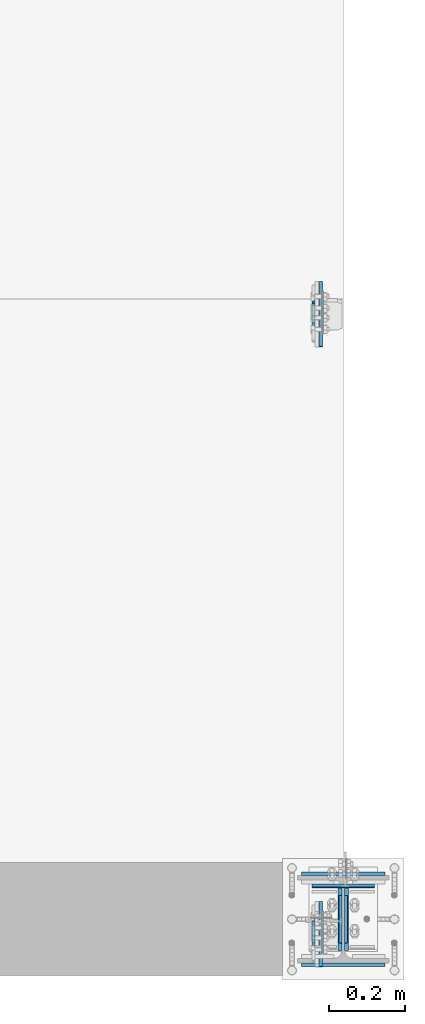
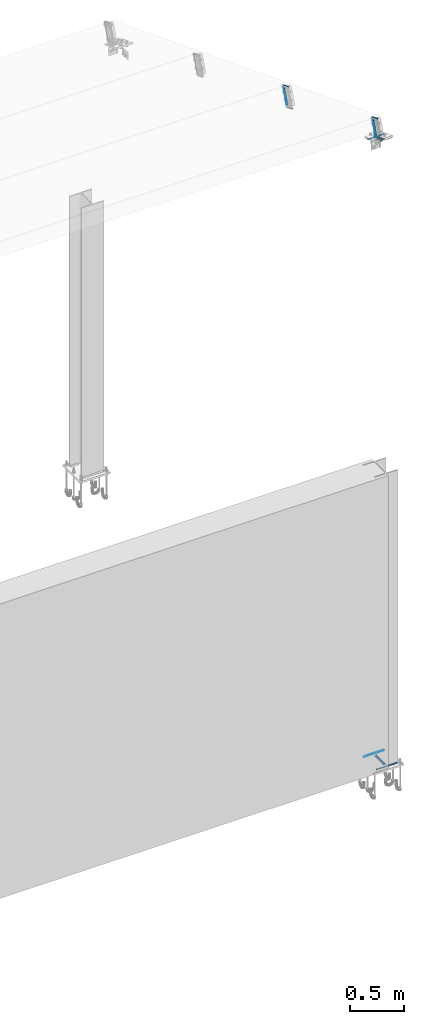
# One storey, part 18 of 72: 26 fasteners.
"""IFC4 building model written with IfcOpenShell, lengths in metres."""

import ifcopenshell
import ifcopenshell.guid

model = None  # the IFC model being written
_history = None  # IfcOwnerHistory: only IFC2X3 demands one
_inside = {}  # id of a spatial element -> (the spatial element, [elements in it])
_under = {}  # id of a project, library or spatial element -> (it, [spatial elements below it])
_declared = {}  # id of a project -> (the project, [libraries it declares])
_typed = {}  # id of a type object -> (the type object, [elements of that type])
_made_of = {}  # id of a material, layer set ... -> (it, [elements and type objects made of it])


def new_model(schema):
    """Start an empty IFC model of exactly this schema.

    Asked for "IFC4X3", IfcOpenShell would pick the latest addendum, in which some entities
    have other attributes; the version numbers below select the first issue.
    IFC2X3 requires an IfcOwnerHistory on every rooted entity: one is made here for all.
    """
    global model, _history
    if schema == "IFC4X3":
        model = ifcopenshell.file(schema_version=(4, 3, 0, 0))
    else:
        model = ifcopenshell.file(schema=schema)
    _inside.clear()
    _under.clear()
    _declared.clear()
    _typed.clear()
    _made_of.clear()
    _history = None
    if model.schema == "IFC2X3":
        org = make("IfcOrganization", Name="unknown")
        user = make(
            "IfcPersonAndOrganization",
            ThePerson=make("IfcPerson", FamilyName="unknown"),
            TheOrganization=org,
        )
        app = make(
            "IfcApplication",
            ApplicationDeveloper=org,
            Version="unknown",
            ApplicationFullName="unknown",
            ApplicationIdentifier="unknown",
        )
        _history = make(
            "IfcOwnerHistory",
            OwningUser=user,
            OwningApplication=app,
            ChangeAction="ADDED",
            CreationDate=0,
        )
    return model


def make(cls, **values):
    """One entity of the class cls with the attributes given. An attribute that is None is left unset."""
    return model.create_entity(
        cls, **{name: value for name, value in values.items() if value is not None}
    )


def rooted(cls, **values):
    """An entity with a GlobalId (a new one), such as an element, a storey or a relation."""
    return make(cls, GlobalId=ifcopenshell.guid.new(), OwnerHistory=_history, **values)


def si_unit(unit_type, name, prefix=None):
    """IfcSIUnit, for example si_unit("LENGTHUNIT", "METRE", prefix="MILLI")."""
    return make("IfcSIUnit", UnitType=unit_type, Prefix=prefix, Name=name)


def assignment(units):
    """IfcUnitAssignment: the units of a project."""
    return None if units is None else make("IfcUnitAssignment", Units=units)


def point(xyz):
    """IfcCartesianPoint."""
    return None if xyz is None else make("IfcCartesianPoint", Coordinates=xyz)


def direction(xyz):
    """IfcDirection."""
    return None if xyz is None else make("IfcDirection", DirectionRatios=xyz)


def frame(location, z_axis=None, x_axis=None):
    """IfcAxis2Placement3D, a coordinate frame: its origin and axes. An axis left out is left unset."""
    return make(
        "IfcAxis2Placement3D",
        Location=point(location),
        Axis=direction(z_axis),
        RefDirection=direction(x_axis),
    )


def origin_with_axes():
    """The frame at (0, 0, 0) with the z axis (0, 0, 1) and the x axis (1, 0, 0) written out."""
    return frame((0.0, 0.0, 0.0), z_axis=(0.0, 0.0, 1.0), x_axis=(1.0, 0.0, 0.0))


def place(relative_to, where):
    """IfcLocalPlacement: puts the frame where relative to a parent placement (None: the world)."""
    return make(
        "IfcLocalPlacement", PlacementRelTo=relative_to, RelativePlacement=where
    )


def context(
    kind, dimensions, precision=None, world=None, true_north=None, identifier=None
):
    """IfcGeometricRepresentationContext, for example the 3D "Model" context."""
    return make(
        "IfcGeometricRepresentationContext",
        ContextIdentifier=identifier,
        ContextType=kind,
        CoordinateSpaceDimension=dimensions,
        Precision=precision,
        WorldCoordinateSystem=world,
        TrueNorth=true_north,
    )


def project(units=None, contexts=None):
    """IfcProject with its units and contexts."""
    return rooted(
        "IfcProject",
        Name="project",
        RepresentationContexts=contexts,
        UnitsInContext=assignment(units),
    )


def spatial(cls, under=None, at=None, **own):
    """A site, building, storey or space (cls), placed at a placement, below another one or the project."""
    s = rooted(cls, ObjectPlacement=at, **own)
    if under is not None:
        _under.setdefault(under.id(), (under, []))[1].append(s)
    return s


def polyline(points):
    """IfcPolyline through the points."""
    return make("IfcPolyline", Points=[point(p) for p in points])


def outline(outer, holes=None, kind="AREA"):
    """IfcArbitraryClosedProfileDef: a profile drawn as a closed curve; with holes, ...WithVoids."""
    if holes is None:
        return make("IfcArbitraryClosedProfileDef", ProfileType=kind, OuterCurve=outer)
    return make(
        "IfcArbitraryProfileDefWithVoids",
        ProfileType=kind,
        OuterCurve=outer,
        InnerCurves=holes,
    )


def extrude(swept, where, along, depth):
    """IfcExtrudedAreaSolid: the profile swept, set in the frame where, extruded along a direction by depth."""
    return make(
        "IfcExtrudedAreaSolid",
        SweptArea=swept,
        Position=where,
        ExtrudedDirection=direction(along),
        Depth=depth,
    )


def shape(context_of_items, identifier, shape_type, items):
    """IfcShapeRepresentation: the items that make up one representation, for example the "Body"."""
    return make(
        "IfcShapeRepresentation",
        ContextOfItems=context_of_items,
        RepresentationIdentifier=identifier,
        RepresentationType=shape_type,
        Items=items,
    )


def made_of(thing, what):
    """Note that an element or type object is made of a material, layer set ...; save() writes the relation."""
    if what is not None:
        _made_of.setdefault(what.id(), (what, []))[1].append(thing)
    return thing


def type_object(cls, material=None, **own):
    """A type object (cls), such as IfcWallType, which elements share."""
    return made_of(rooted(cls, **own), material)


def element(
    cls,
    number,
    at=None,
    inside=None,
    cuts=None,
    type_object=None,
    material=None,
    context=None,
    identifier="Body",
    shape_type=None,
    held_by="IfcProductDefinitionShape",
    body=None,
    shapes=None,
    **own,
):
    """One element of the class cls, such as IfcWall. Its Tag is "e" and its number.

    at: its placement. inside: the storey or other place that contains it. cuts: it is an
    opening in that element (IfcRelVoidsElement). A single representation is given by context,
    identifier, shape_type and body (its items); several are given by shapes. held_by: the class
    of the entity that holds the representations. save() writes the other relations.
    """
    e = rooted(cls, Tag="e%d" % number, ObjectPlacement=at, **own)
    if body is not None:
        shapes = [shape(context, identifier, shape_type, body)]
    if shapes is not None:
        e.Representation = make(held_by, Representations=shapes)
    if inside is not None:
        _inside.setdefault(inside.id(), (inside, []))[1].append(e)
    if cuts is not None:
        rooted(
            "IfcRelVoidsElement", RelatingBuildingElement=cuts, RelatedOpeningElement=e
        )
    if type_object is not None:
        _typed.setdefault(type_object.id(), (type_object, []))[1].append(e)
    return made_of(e, material)


def aggregate(whole, parts):
    """IfcRelAggregates: a whole, such as a stair, and the parts it consists of."""
    return rooted("IfcRelAggregates", RelatingObject=whole, RelatedObjects=parts)


def save(model, path):
    """Write the relations noted so far, then the file.

    IfcRelAggregates (storeys below a building ...), IfcRelContainedInSpatialStructure (elements
    in a storey), IfcRelDefinesByType, IfcRelAssociatesMaterial and IfcRelDeclares: one each for
    every whole, place, type object, material and project.
    """
    for whole, parts in _under.values():
        aggregate(whole, parts)
    for where, things in _inside.values():
        rooted(
            "IfcRelContainedInSpatialStructure",
            RelatedElements=things,
            RelatingStructure=where,
        )
    for kind, things in _typed.values():
        rooted("IfcRelDefinesByType", RelatedObjects=things, RelatingType=kind)
    for what, things in _made_of.values():
        rooted("IfcRelAssociatesMaterial", RelatedObjects=things, RelatingMaterial=what)
    for by, libraries in _declared.values():
        rooted("IfcRelDeclares", RelatingContext=by, RelatedDefinitions=libraries)
    model.write(path)


model = new_model("IFC4")

# Units and contexts
model_context = context("Model", 3, precision=1e-05, world=origin_with_axes())
ifc_project = project(units=[si_unit("LENGTHUNIT", "METRE"), si_unit("AREAUNIT", "SQUARE_METRE"), si_unit("VOLUMEUNIT", "CUBIC_METRE"), si_unit("MASSUNIT", "GRAM", prefix="KILO"), si_unit("TIMEUNIT", "SECOND"), si_unit("PLANEANGLEUNIT", "RADIAN"), si_unit("SOLIDANGLEUNIT", "STERADIAN"), si_unit("THERMODYNAMICTEMPERATUREUNIT", "DEGREE_CELSIUS")], contexts=[model_context])

# Site, building, storey
placement_1 = place(None, origin_with_axes())
site = spatial("IfcSite", under=ifc_project, at=placement_1, Name="Italia", CompositionType="ELEMENT")
building = spatial("IfcBuilding", under=site, at=placement_1, Name="Uffici", CompositionType="ELEMENT")
storey = spatial("IfcBuildingStorey", under=building, at=placement_1, Name="Storey 0", CompositionType="ELEMENT", Elevation=0.0)

# Fasteners
fastener_type_1 = type_object("IfcFastenerType", Name="Collegamento -030_-029", PredefinedType="WELD")
placement_2 = place(placement_1, origin_with_axes())
fastener_1_placement = place(placement_2, origin_with_axes())
element("IfcFastener", 1, at=fastener_1_placement, inside=storey, type_object=fastener_type_1, Name="Collegamento -030_-029", context=model_context, shape_type="SweptSolid", body=[
    extrude(outline(polyline([(0.0, 0.0), (-0.00717354, 0.00695848), (0.0, 0.00695848), (0.0, 0.0)])), frame((13.8951, 1.63499, 6.58409), z_axis=(0.0, -0.361462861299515, -0.932386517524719), x_axis=(1.0, 0.0, 0.0)), (0.0, 0.0, 1.0), 0.1591),
])
fastener_type_2 = type_object("IfcFastenerType", Name="Collegamento -030_-029", PredefinedType="WELD")
fastener_2_placement = place(placement_2, origin_with_axes())
element("IfcFastener", 2, at=fastener_2_placement, inside=storey, type_object=fastener_type_2, Name="Collegamento -030_-029", context=model_context, shape_type="SweptSolid", body=[
    extrude(outline(polyline([(0.0, 0.0), (0.00717354, -0.00695837), (0.0, -0.00695837), (0.0, 0.0)])), frame((13.8951, 1.55938, 6.44277), z_axis=(0.0, 0.36146154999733, 0.932386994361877), x_axis=(-1.0, 0.0, 0.0)), (0.0, 0.0, 1.0), 0.1591),
])
fastener_type_3 = type_object("IfcFastenerType", Name="Collegamento -030_-029", PredefinedType="WELD")
fastener_3_placement = place(placement_2, origin_with_axes())
element("IfcFastener", 3, at=fastener_3_placement, inside=storey, type_object=fastener_type_3, Name="Collegamento -030_-029", context=model_context, shape_type="SweptSolid", body=[
    extrude(outline(polyline([(0.0, 0.0), (-0.00717354, 0.00695848), (0.0, 0.00695848), (0.0, 0.0)])), frame((13.8951, 1.63499, 6.58409), z_axis=(0.0, -0.361462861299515, -0.932386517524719), x_axis=(1.0, 0.0, 0.0)), (0.0, 0.0, 1.0), 0.1591),
])
fastener_type_4 = type_object("IfcFastenerType", Name="Collegamento -030_-029", PredefinedType="WELD")
fastener_4_placement = place(placement_2, origin_with_axes())
element("IfcFastener", 4, at=fastener_4_placement, inside=storey, type_object=fastener_type_4, Name="Collegamento -030_-029", context=model_context, shape_type="SweptSolid", body=[
    extrude(outline(polyline([(0.0, 0.0), (0.00717354, -0.00695837), (0.0, -0.00695837), (0.0, 0.0)])), frame((13.8951, 1.55938, 6.44277), z_axis=(0.0, 0.36146154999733, 0.932386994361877), x_axis=(-1.0, 0.0, 0.0)), (0.0, 0.0, 1.0), 0.1591),
])
fastener_type_5 = type_object("IfcFastenerType", Name="Collegamento -030_-029", PredefinedType="WELD")
fastener_5_placement = place(placement_2, origin_with_axes())
element("IfcFastener", 5, at=fastener_5_placement, inside=storey, type_object=fastener_type_5, Name="Collegamento -030_-029", context=model_context, shape_type="SweptSolid", body=[
    extrude(outline(polyline([(0.0, 0.0), (0.00937271, -0.00909233), (0.0, -0.00909233), (0.0, 0.0)])), frame((13.9151, 1.51041, 6.42806), z_axis=(0.0, 0.932386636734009, -0.361462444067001), x_axis=(-1.0, 0.0, 0.0)), (0.0, 0.0, 1.0), 0.1001),
])
fastener_type_6 = type_object("IfcFastenerType", Name="Collegamento -030_-029", PredefinedType="WELD")
fastener_6_placement = place(placement_2, origin_with_axes())
element("IfcFastener", 6, at=fastener_6_placement, inside=storey, type_object=fastener_type_6, Name="Collegamento -030_-029", context=model_context, shape_type="SweptSolid", body=[
    extrude(outline(polyline([(0.0, 0.0), (-0.00937271, 0.00909185), (0.0, 0.00909185), (0.0, 0.0)])), frame((13.9151, 1.67673, 6.58014), z_axis=(0.0, -0.932386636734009, 0.361462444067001), x_axis=(1.0, 0.0, 0.0)), (0.0, 0.0, 1.0), 0.1001),
])
fastener_type_7 = type_object("IfcFastenerType", Name="Collegamenti 0001_0101 0002_0102 0003_0103 0004_0104 0005_0105 0011_0111 0012_0112 0013_0113 0014_0114 0015_0115", PredefinedType="WELD")
fastener_7_placement = place(placement_2, origin_with_axes())
element("IfcFastener", 7, at=fastener_7_placement, inside=storey, type_object=fastener_type_7, Name="Collegamenti 0001_0101 0002_0102 0003_0103 0004_0104 0005_0105 0011_0111 0012_0112 0013_0113 0014_0114 0015_0115", context=model_context, shape_type="SweptSolid", body=[
    extrude(outline(polyline([(0.0, 0.0), (0.00986816, 0.0101734), (0.00986816, 0.0), (0.0, 0.0)])), frame((14.0801, 0.124818, 0.01995), z_axis=(-1.0, 6.7701649e-08, 0.0), x_axis=(-6.7701649e-08, -1.0, 0.0)), (0.0, 0.0, 1.0), 0.2201),
])
fastener_type_8 = type_object("IfcFastenerType", Name="Collegamenti 0001_0101 0002_0102 0003_0103 0004_0104 0005_0105 0011_0111 0012_0112 0013_0113 0014_0114 0015_0115", PredefinedType="WELD")
fastener_8_placement = place(placement_2, origin_with_axes())
element("IfcFastener", 8, at=fastener_8_placement, inside=storey, type_object=fastener_type_8, Name="Collegamenti 0001_0101 0002_0102 0003_0103 0004_0104 0005_0105 0011_0111 0012_0112 0013_0113 0014_0114 0015_0115", context=model_context, shape_type="SweptSolid", body=[
    extrude(outline(polyline([(0.0, 0.0), (0.00986816, 0.0101734), (0.00986816, 0.0), (0.0, 0.0)])), frame((13.86, -0.124818, 0.01995), z_axis=(1.0, -6.7701649e-08, 0.0), x_axis=(6.7701649e-08, 1.0, 0.0)), (0.0, 0.0, 1.0), 0.2201),
])
fastener_type_9 = type_object("IfcFastenerType", Name="Collegamenti 0001_0101 0002_0102 0003_0103 0004_0104 0005_0105 0011_0111 0012_0112 0013_0113 0014_0114 0015_0115", PredefinedType="WELD")
fastener_9_placement = place(placement_2, origin_with_axes())
element("IfcFastener", 9, at=fastener_9_placement, inside=storey, type_object=fastener_type_9, Name="Collegamenti 0001_0101 0002_0102 0003_0103 0004_0104 0005_0105 0011_0111 0012_0112 0013_0113 0014_0114 0015_0115", context=model_context, shape_type="SweptSolid", body=[
    extrude(outline(polyline([(0.0, 0.0), (0.00986767, 0.0101734), (0.00986767, 0.0), (0.0, 0.0)])), frame((13.9836, -0.08205, 0.01995), z_axis=(0.0, 1.0, 0.0), x_axis=(-1.0, 0.0, 0.0)), (0.0, 0.0, 1.0), 0.1641),
])
fastener_type_10 = type_object("IfcFastenerType", Name="Collegamenti 0001_0101 0002_0102 0003_0103 0004_0104 0005_0105 0011_0111 0012_0112 0013_0113 0014_0114 0015_0115", PredefinedType="WELD")
fastener_10_placement = place(placement_2, origin_with_axes())
element("IfcFastener", 10, at=fastener_10_placement, inside=storey, type_object=fastener_type_10, Name="Collegamenti 0001_0101 0002_0102 0003_0103 0004_0104 0005_0105 0011_0111 0012_0112 0013_0113 0014_0114 0015_0115", context=model_context, shape_type="SweptSolid", body=[
    extrude(outline(polyline([(0.0, 0.0), (0.00986767, 0.0101734), (0.00986767, 0.0), (0.0, 0.0)])), frame((13.9564, 0.08205, 0.01995), z_axis=(0.0, -1.0, 0.0), x_axis=(1.0, 0.0, 0.0)), (0.0, 0.0, 1.0), 0.1641),
])
fastener_type_11 = type_object("IfcFastenerType", Name="Collegamenti 0001_0101 0002_0102 0003_0103 0004_0104 0005_0105 0011_0111 0012_0112 0013_0113 0014_0114 0015_0115", PredefinedType="WELD")
fastener_11_placement = place(placement_2, origin_with_axes())
element("IfcFastener", 11, at=fastener_11_placement, inside=storey, type_object=fastener_type_11, Name="Collegamenti 0001_0101 0002_0102 0003_0103 0004_0104 0005_0105 0011_0111 0012_0112 0013_0113 0014_0114 0015_0115", context=model_context, shape_type="SweptSolid", body=[
    extrude(outline(polyline([(0.0, 0.0), (0.00986816, 0.0101734), (0.00986816, 0.0), (0.0, 0.0)])), frame((14.0801, 0.124818, 0.01995), z_axis=(-1.0, 6.7701649e-08, 0.0), x_axis=(-6.7701649e-08, -1.0, 0.0)), (0.0, 0.0, 1.0), 0.2201),
])
fastener_type_12 = type_object("IfcFastenerType", Name="Collegamenti 0001_0101 0002_0102 0003_0103 0004_0104 0005_0105 0011_0111 0012_0112 0013_0113 0014_0114 0015_0115", PredefinedType="WELD")
fastener_12_placement = place(placement_2, origin_with_axes())
element("IfcFastener", 12, at=fastener_12_placement, inside=storey, type_object=fastener_type_12, Name="Collegamenti 0001_0101 0002_0102 0003_0103 0004_0104 0005_0105 0011_0111 0012_0112 0013_0113 0014_0114 0015_0115", context=model_context, shape_type="SweptSolid", body=[
    extrude(outline(polyline([(0.0, 0.0), (0.00986816, 0.0101734), (0.00986816, 0.0), (0.0, 0.0)])), frame((13.86, -0.124818, 0.01995), z_axis=(1.0, -6.7701649e-08, 0.0), x_axis=(6.7701649e-08, 1.0, 0.0)), (0.0, 0.0, 1.0), 0.2201),
])
fastener_type_13 = type_object("IfcFastenerType", Name="Collegamenti 0001_0101 0002_0102 0003_0103 0004_0104 0005_0105 0011_0111 0012_0112 0013_0113 0014_0114 0015_0115", PredefinedType="WELD")
fastener_13_placement = place(placement_2, origin_with_axes())
element("IfcFastener", 13, at=fastener_13_placement, inside=storey, type_object=fastener_type_13, Name="Collegamenti 0001_0101 0002_0102 0003_0103 0004_0104 0005_0105 0011_0111 0012_0112 0013_0113 0014_0114 0015_0115", context=model_context, shape_type="SweptSolid", body=[
    extrude(outline(polyline([(0.0, 0.0), (0.00986767, 0.0101734), (0.00986767, 0.0), (0.0, 0.0)])), frame((13.9836, -0.08205, 0.01995), z_axis=(0.0, 1.0, 0.0), x_axis=(-1.0, 0.0, 0.0)), (0.0, 0.0, 1.0), 0.1641),
])
fastener_type_14 = type_object("IfcFastenerType", Name="Collegamenti 0001_0101 0002_0102 0003_0103 0004_0104 0005_0105 0011_0111 0012_0112 0013_0113 0014_0114 0015_0115", PredefinedType="WELD")
fastener_14_placement = place(placement_2, origin_with_axes())
element("IfcFastener", 14, at=fastener_14_placement, inside=storey, type_object=fastener_type_14, Name="Collegamenti 0001_0101 0002_0102 0003_0103 0004_0104 0005_0105 0011_0111 0012_0112 0013_0113 0014_0114 0015_0115", context=model_context, shape_type="SweptSolid", body=[
    extrude(outline(polyline([(0.0, 0.0), (0.00986767, 0.0101734), (0.00986767, 0.0), (0.0, 0.0)])), frame((13.9564, 0.08205, 0.01995), z_axis=(0.0, -1.0, 0.0), x_axis=(1.0, 0.0, 0.0)), (0.0, 0.0, 1.0), 0.1641),
])
fastener_type_15 = type_object("IfcFastenerType", Name="Collegamento 0205_0105", PredefinedType="WELD")
fastener_15_placement = place(placement_2, origin_with_axes())
element("IfcFastener", 15, at=fastener_15_placement, inside=storey, type_object=fastener_type_15, Name="Collegamento 0205_0105", context=model_context, shape_type="SweptSolid", body=[
    extrude(outline(polyline([(0.0, 0.0), (-0.0103468, -0.00475407), (-0.00739191, 0.00286627), (0.0, 0.0)])), frame((13.888, 0.0928638, 6.952), z_axis=(1.0, 0.0, 0.0), x_axis=(0.0, 1.0, 0.0)), (0.0, 0.0, 1.0), 0.164101),
])
fastener_type_16 = type_object("IfcFastenerType", Name="Collegamento 0205_0105", PredefinedType="WELD")
fastener_16_placement = place(placement_2, origin_with_axes())
element("IfcFastener", 16, at=fastener_16_placement, inside=storey, type_object=fastener_type_16, Name="Collegamento 0205_0105", context=model_context, shape_type="SweptSolid", body=[
    extrude(outline(polyline([(0.0, 0.0), (-0.00792789, -0.00817299), (-0.00792789, 0.0), (0.0, 0.0)])), frame((13.9809, 0.0620796, 6.96393), z_axis=(0.0, -0.932361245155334, 0.361528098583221), x_axis=(1.0, 0.0, 0.0)), (0.0, 0.0, 1.0), 0.133127),
])
fastener_type_17 = type_object("IfcFastenerType", Name="Collegamento 0205_0105", PredefinedType="WELD")
fastener_17_placement = place(placement_2, origin_with_axes())
element("IfcFastener", 17, at=fastener_17_placement, inside=storey, type_object=fastener_type_17, Name="Collegamento 0205_0105", context=model_context, shape_type="SweptSolid", body=[
    extrude(outline(polyline([(0.0, 0.0), (-0.00792789, -0.00817299), (-0.00792789, 0.0), (0.0, 0.0)])), frame((13.9591, -0.0620427, 7.01206), z_axis=(0.0, 0.932361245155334, -0.361528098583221), x_axis=(-1.0, 0.0, 0.0)), (0.0, 0.0, 1.0), 0.133127),
])
fastener_type_18 = type_object("IfcFastenerType", Name="Collegamento 0205_0105", PredefinedType="WELD")
fastener_18_placement = place(placement_2, origin_with_axes())
element("IfcFastener", 18, at=fastener_18_placement, inside=storey, type_object=fastener_type_18, Name="Collegamento 0205_0105", context=model_context, shape_type="SweptSolid", body=[
    extrude(outline(polyline([(0.0, 0.0), (-0.0103468, -0.00475407), (-0.00739191, 0.00286627), (0.0, 0.0)])), frame((13.888, 0.0928638, 6.952), z_axis=(1.0, 0.0, 0.0), x_axis=(0.0, 1.0, 0.0)), (0.0, 0.0, 1.0), 0.164101),
])
fastener_type_19 = type_object("IfcFastenerType", Name="Collegamento 0205_0105", PredefinedType="WELD")
fastener_19_placement = place(placement_2, origin_with_axes())
element("IfcFastener", 19, at=fastener_19_placement, inside=storey, type_object=fastener_type_19, Name="Collegamento 0205_0105", context=model_context, shape_type="SweptSolid", body=[
    extrude(outline(polyline([(0.0, 0.0), (-0.00792789, -0.00817299), (-0.00792789, 0.0), (0.0, 0.0)])), frame((13.9809, 0.0620796, 6.96393), z_axis=(0.0, -0.932361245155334, 0.361528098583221), x_axis=(1.0, 0.0, 0.0)), (0.0, 0.0, 1.0), 0.133127),
])
fastener_type_20 = type_object("IfcFastenerType", Name="Collegamento 0205_0105", PredefinedType="WELD")
fastener_20_placement = place(placement_2, origin_with_axes())
element("IfcFastener", 20, at=fastener_20_placement, inside=storey, type_object=fastener_type_20, Name="Collegamento 0205_0105", context=model_context, shape_type="SweptSolid", body=[
    extrude(outline(polyline([(0.0, 0.0), (-0.00792789, -0.00817299), (-0.00792789, 0.0), (0.0, 0.0)])), frame((13.9591, -0.0620427, 7.01206), z_axis=(0.0, 0.932361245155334, -0.361528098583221), x_axis=(-1.0, 0.0, 0.0)), (0.0, 0.0, 1.0), 0.133127),
])
fastener_type_21 = type_object("IfcFastenerType", Name="Collegamento 0205_0204", PredefinedType="WELD")
fastener_21_placement = place(placement_2, origin_with_axes())
element("IfcFastener", 21, at=fastener_21_placement, inside=storey, type_object=fastener_type_21, Name="Collegamento 0205_0204", context=model_context, shape_type="SweptSolid", body=[
    extrude(outline(polyline([(0.0, 0.0), (-0.00717354, 0.00695801), (0.0, 0.00695801), (0.0, 0.0)])), frame((13.8951, 0.00165956, 7.21742), z_axis=(0.0, -0.361462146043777, -0.932386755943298), x_axis=(1.0, 0.0, 0.0)), (0.0, 0.0, 1.0), 0.1591),
])
fastener_type_22 = type_object("IfcFastenerType", Name="Collegamento 0205_0204", PredefinedType="WELD")
fastener_22_placement = place(placement_2, origin_with_axes())
element("IfcFastener", 22, at=fastener_22_placement, inside=storey, type_object=fastener_type_22, Name="Collegamento 0205_0204", context=model_context, shape_type="SweptSolid", body=[
    extrude(outline(polyline([(0.0, 0.0), (0.00717354, -0.00695825), (0.0, -0.00695825), (0.0, 0.0)])), frame((13.8951, -0.0739523, 7.0761), z_axis=(0.0, 0.36146005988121, 0.932387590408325), x_axis=(-1.0, 0.0, 0.0)), (0.0, 0.0, 1.0), 0.1591),
])
fastener_type_23 = type_object("IfcFastenerType", Name="Collegamento 0205_0204", PredefinedType="WELD")
fastener_23_placement = place(placement_2, origin_with_axes())
element("IfcFastener", 23, at=fastener_23_placement, inside=storey, type_object=fastener_type_23, Name="Collegamento 0205_0204", context=model_context, shape_type="SweptSolid", body=[
    extrude(outline(polyline([(0.0, 0.0), (-0.00717354, 0.00695801), (0.0, 0.00695801), (0.0, 0.0)])), frame((13.8951, 0.00165956, 7.21742), z_axis=(0.0, -0.361462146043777, -0.932386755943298), x_axis=(1.0, 0.0, 0.0)), (0.0, 0.0, 1.0), 0.1591),
])
fastener_type_24 = type_object("IfcFastenerType", Name="Collegamento 0205_0204", PredefinedType="WELD")
fastener_24_placement = place(placement_2, origin_with_axes())
element("IfcFastener", 24, at=fastener_24_placement, inside=storey, type_object=fastener_type_24, Name="Collegamento 0205_0204", context=model_context, shape_type="SweptSolid", body=[
    extrude(outline(polyline([(0.0, 0.0), (0.00717354, -0.00695825), (0.0, -0.00695825), (0.0, 0.0)])), frame((13.8951, -0.0739523, 7.0761), z_axis=(0.0, 0.36146005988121, 0.932387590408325), x_axis=(-1.0, 0.0, 0.0)), (0.0, 0.0, 1.0), 0.1591),
])
fastener_type_25 = type_object("IfcFastenerType", Name="Collegamento 0205_0204", PredefinedType="WELD")
fastener_25_placement = place(placement_2, origin_with_axes())
element("IfcFastener", 25, at=fastener_25_placement, inside=storey, type_object=fastener_type_25, Name="Collegamento 0205_0204", context=model_context, shape_type="SweptSolid", body=[
    extrude(outline(polyline([(0.0, 0.0), (0.00937271, -0.00909233), (0.0, -0.00909233), (0.0, 0.0)])), frame((13.9151, -0.122918, 7.0614), z_axis=(0.0, 0.932386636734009, -0.361462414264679), x_axis=(-1.0, 0.0, 0.0)), (0.0, 0.0, 1.0), 0.1001),
])
fastener_type_26 = type_object("IfcFastenerType", Name="Collegamento 0205_0204", PredefinedType="WELD")
fastener_26_placement = place(placement_2, origin_with_axes())
element("IfcFastener", 26, at=fastener_26_placement, inside=storey, type_object=fastener_type_26, Name="Collegamento 0205_0204", context=model_context, shape_type="SweptSolid", body=[
    extrude(outline(polyline([(0.0, 0.0), (-0.00937271, 0.00909233), (0.0, 0.00909233), (0.0, 0.0)])), frame((13.9151, 0.0433989, 7.21348), z_axis=(0.0, -0.932386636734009, 0.361462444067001), x_axis=(1.0, 0.0, 0.0)), (0.0, 0.0, 1.0), 0.1001),
])

save(model, "model.ifc")
